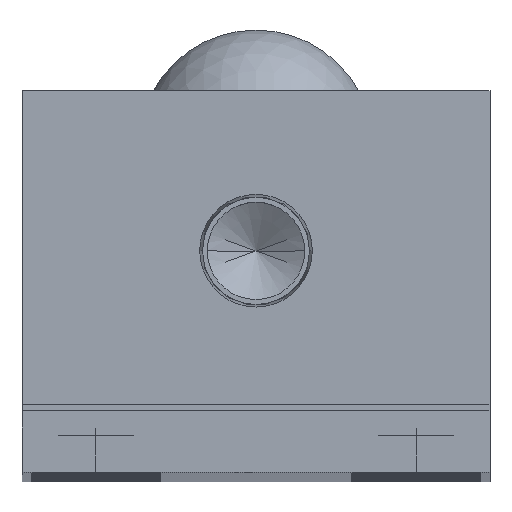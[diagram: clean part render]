
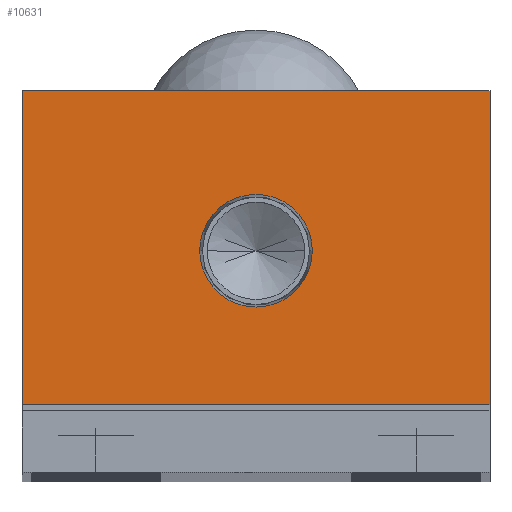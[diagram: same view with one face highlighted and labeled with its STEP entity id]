
A CAD part, top view. The second image highlights one B-rep face of the part: STEP entity #10631.
In plain terms, the highlighted planar face has unit normal (0, 0, 1).
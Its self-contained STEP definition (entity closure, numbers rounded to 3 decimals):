
#57 = ORIENTED_EDGE ( 'NONE', *, *, #10248, .T. ) ;
#112 = EDGE_CURVE ( 'NONE', #2639, #2985, #6032, .T. ) ;
#250 = FACE_OUTER_BOUND ( 'NONE', #6593, .T. ) ;
#580 = DIRECTION ( 'NONE',  ( 1., 0., 0. ) ) ;
#664 = DIRECTION ( 'NONE',  ( 0., 0., 1. ) ) ;
#726 = VERTEX_POINT ( 'NONE', #745 ) ;
#745 = CARTESIAN_POINT ( 'NONE',  ( 19., 5.5, 0. ) ) ;
#818 = CIRCLE ( 'NONE', #9654, 4.574 ) ;
#1106 = FACE_BOUND ( 'NONE', #4075, .T. ) ;
#1202 = CARTESIAN_POINT ( 'NONE',  ( 19., 31., 0. ) ) ;
#1268 = AXIS2_PLACEMENT_3D ( 'NONE', #8994, #9950, #4337 ) ;
#1353 = LINE ( 'NONE', #8412, #3849 ) ;
#1898 = DIRECTION ( 'NONE',  ( 0., 1., 0. ) ) ;
#2639 = VERTEX_POINT ( 'NONE', #7265 ) ;
#2792 = ORIENTED_EDGE ( 'NONE', *, *, #112, .T. ) ;
#2852 = VECTOR ( 'NONE', #580, 1000. ) ;
#2985 = VERTEX_POINT ( 'NONE', #9030 ) ;
#3285 = VERTEX_POINT ( 'NONE', #1202 ) ;
#3420 = PLANE ( 'NONE',  #1268 ) ;
#3849 = VECTOR ( 'NONE', #1898, 1000. ) ;
#4075 = EDGE_LOOP ( 'NONE', ( #11068, #6138 ) ) ;
#4109 = CARTESIAN_POINT ( 'NONE',  ( -4.574, 18., 0. ) ) ;
#4337 = DIRECTION ( 'NONE',  ( 1., 0., 0. ) ) ;
#5206 = DIRECTION ( 'NONE',  ( 0., 0., 1. ) ) ;
#5222 = CARTESIAN_POINT ( 'NONE',  ( 19., 5.5, 0. ) ) ;
#5398 = EDGE_CURVE ( 'NONE', #11850, #9953, #9446, .T. ) ;
#6032 = LINE ( 'NONE', #7384, #8222 ) ;
#6138 = ORIENTED_EDGE ( 'NONE', *, *, #5398, .F. ) ;
#6256 = CARTESIAN_POINT ( 'NONE',  ( 0., 18., 0. ) ) ;
#6486 = CARTESIAN_POINT ( 'NONE',  ( 19., 31., 0. ) ) ;
#6593 = EDGE_LOOP ( 'NONE', ( #9753, #7583, #57, #2792 ) ) ;
#7208 = DIRECTION ( 'NONE',  ( 1., 0., 0. ) ) ;
#7265 = CARTESIAN_POINT ( 'NONE',  ( -19., 31., 0. ) ) ;
#7384 = CARTESIAN_POINT ( 'NONE',  ( -19., 31., 0. ) ) ;
#7437 = EDGE_CURVE ( 'NONE', #2985, #726, #10568, .T. ) ;
#7583 = ORIENTED_EDGE ( 'NONE', *, *, #8464, .T. ) ;
#7691 = VECTOR ( 'NONE', #10239, 1000. ) ;
#8222 = VECTOR ( 'NONE', #11334, 1000. ) ;
#8412 = CARTESIAN_POINT ( 'NONE',  ( 19., 5.5, 0. ) ) ;
#8464 = EDGE_CURVE ( 'NONE', #726, #3285, #1353, .T. ) ;
#8805 = CARTESIAN_POINT ( 'NONE',  ( 4.574, 18., 0. ) ) ;
#8994 = CARTESIAN_POINT ( 'NONE',  ( 0., 0., 0. ) ) ;
#9030 = CARTESIAN_POINT ( 'NONE',  ( -19., 5.5, 0. ) ) ;
#9446 = CIRCLE ( 'NONE', #10390, 4.574 ) ;
#9654 = AXIS2_PLACEMENT_3D ( 'NONE', #10794, #5206, #11743 ) ;
#9753 = ORIENTED_EDGE ( 'NONE', *, *, #7437, .T. ) ;
#9950 = DIRECTION ( 'NONE',  ( 0., 0., 1. ) ) ;
#9953 = VERTEX_POINT ( 'NONE', #8805 ) ;
#10177 = LINE ( 'NONE', #6486, #7691 ) ;
#10239 = DIRECTION ( 'NONE',  ( -1., 0., 0. ) ) ;
#10248 = EDGE_CURVE ( 'NONE', #3285, #2639, #10177, .T. ) ;
#10390 = AXIS2_PLACEMENT_3D ( 'NONE', #6256, #664, #7208 ) ;
#10568 = LINE ( 'NONE', #5222, #2852 ) ;
#10585 = EDGE_CURVE ( 'NONE', #9953, #11850, #818, .T. ) ;
#10631 = ADVANCED_FACE ( 'NONE', ( #1106, #250 ), #3420, .T. ) ;
#10794 = CARTESIAN_POINT ( 'NONE',  ( 0., 18., 0. ) ) ;
#11068 = ORIENTED_EDGE ( 'NONE', *, *, #10585, .F. ) ;
#11334 = DIRECTION ( 'NONE',  ( 0., -1., 0. ) ) ;
#11743 = DIRECTION ( 'NONE',  ( 1., 0., 0. ) ) ;
#11850 = VERTEX_POINT ( 'NONE', #4109 ) ;
